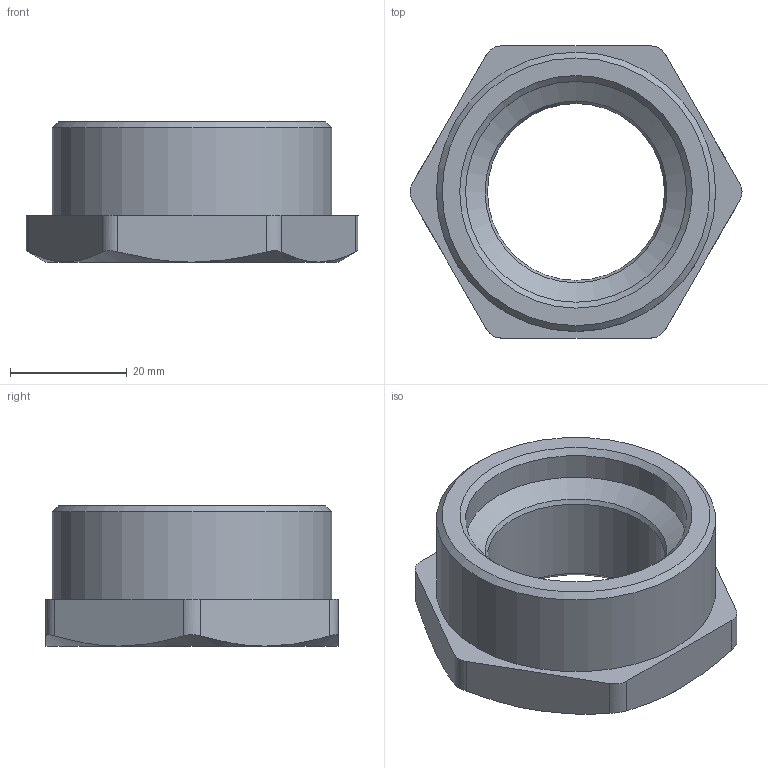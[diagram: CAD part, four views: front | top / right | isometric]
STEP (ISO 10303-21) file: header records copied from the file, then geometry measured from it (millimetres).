
FILE_DESCRIPTION(/* description */ (''),/* implementation_level */ '2;1');
FILE_NAME(/* name */ 'W:\Technik\Konstruktion\CAD-Daten\Vakuumsauger\270_\270.604\270.604.stp',/* time_stamp */ '2017-05-22T11:16:40+02:00',/* author */ ('DFloßmann'),/* organization */ (''),/* preprocessor_version */ 'ST-DEVELOPER v16.5',/* originating_system */ 'Autodesk Inventor 2017',/* authorisation */ '');
FILE_SCHEMA (('AUTOMOTIVE_DESIGN { 1 0 10303 214 3 1 1 }'));
Length unit declared in the file: millimetre
Products named in the file (1): 270.604
Bounding box: 56.81 x 50 x 24 mm (x, y, z)
Volume: 25702.7 mm3; surface area: 8593.6 mm2
Topology: 1 solids, 1 shells, 29 faces, 66 edges, 40 vertices
Faces by surface type: cone 11, plane 9, cylinder 9
Full cylindrical faces by diameter (mm): 30.291 x1, 37.8 x1, 47.803 x1
Entity records: 830 total; most frequent: CARTESIAN_POINT 206, DIRECTION 122, ORIENTED_EDGE 116, EDGE_CURVE 58, AXIS2_PLACEMENT_3D 52, EDGE_LOOP 40, VERTEX_POINT 40, FACE_OUTER_BOUND 29
